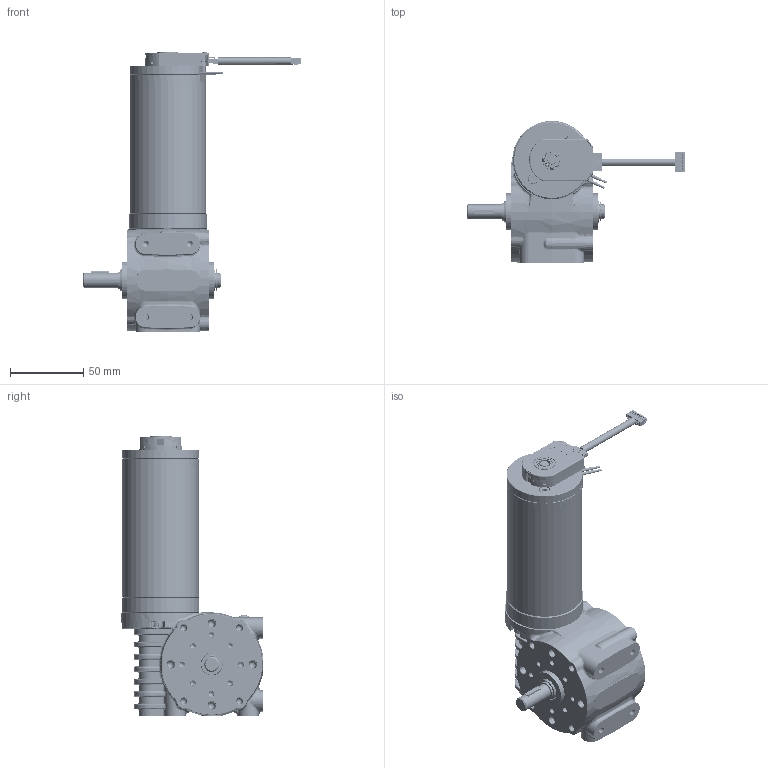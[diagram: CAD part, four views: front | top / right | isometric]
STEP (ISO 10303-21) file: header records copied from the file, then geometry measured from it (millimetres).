
FILE_DESCRIPTION (( 'STEP AP214' ), '1' );
FILE_NAME ('BRx52-30-GB80 - Encoder - Shaft.STEP', '2025-05-02T09:01:38', ( '' ), ( '' ), 'SwSTEP 2.0', 'SolidWorks 2023', '' );
FILE_SCHEMA (( 'AUTOMOTIVE_DESIGN' ));
Length unit declared in the file: millimetre
Products named in the file (1): BRx52-30-GB80 - Encoder - Shaft
Bounding box: 148.95 x 96.92 x 190.65 mm (x, y, z)
Volume: 311809.3 mm3; surface area: 163590.6 mm2
Topology: 51 solids, 51 shells, 5864 faces, 15404 edges, 9752 vertices
Faces by surface type: cylinder 2464, plane 1975, cone 544, torus 435, bspline 414, sphere 32
Entity records: 276281 total; most frequent: CARTESIAN_POINT 68362, ORIENTED_EDGE 30596, DIRECTION 29644, EDGE_CURVE 15298, AXIS2_PLACEMENT_3D 11265, VERTEX_POINT 9752, VECTOR 7114, LINE 7114
